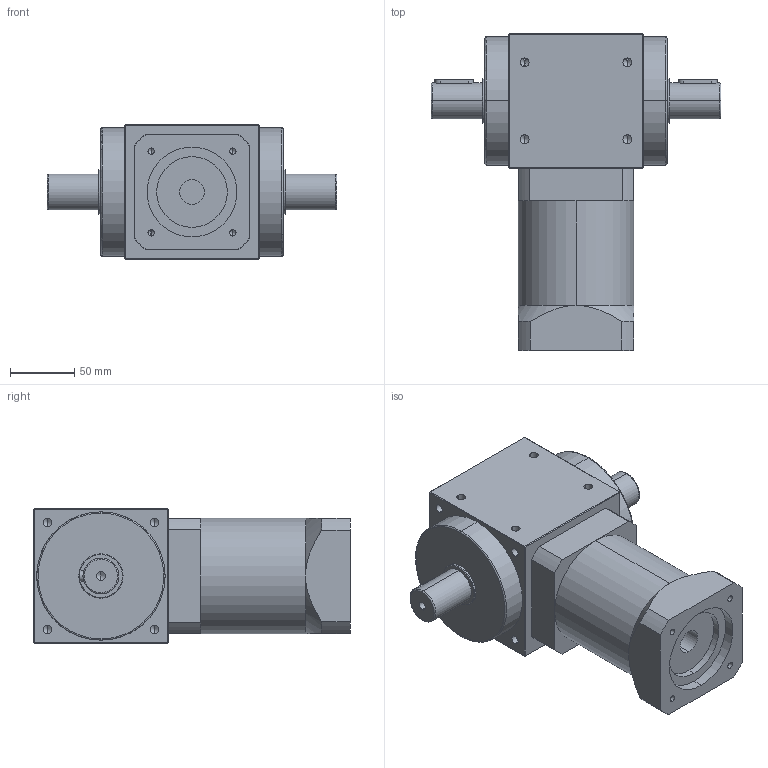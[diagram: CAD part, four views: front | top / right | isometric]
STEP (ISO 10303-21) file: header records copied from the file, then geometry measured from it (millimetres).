
FILE_DESCRIPTION (( 'STEP AP214' ), '1' );
FILE_NAME ('RXW105A-L2-2P--16-80-100-M6.STEP', '2020-12-05T08:41:56', ( '微软用户' ), ( '微软中国' ), 'SwSTEP 2.0', 'SolidWorks 2014', '' );
FILE_SCHEMA (( 'AUTOMOTIVE_DESIGN' ));
Length unit declared in the file: millimetre
Products named in the file (2): RXW105A-L2-2P--16-80-100-M6
Bounding box: 226 x 247 x 105 mm (x, y, z)
Volume: 2418640.6 mm3; surface area: 161638.1 mm2
Topology: 2 solids, 2 shells, 218 faces, 514 edges, 278 vertices
Faces by surface type: cylinder 86, cone 64, plane 60, bspline 8
Entity records: 7990 total; most frequent: CARTESIAN_POINT 1420, DIRECTION 1038, ORIENTED_EDGE 924, EDGE_CURVE 462, AXIS2_PLACEMENT_3D 400, VERTEX_POINT 278, EDGE_LOOP 256, LINE 238
